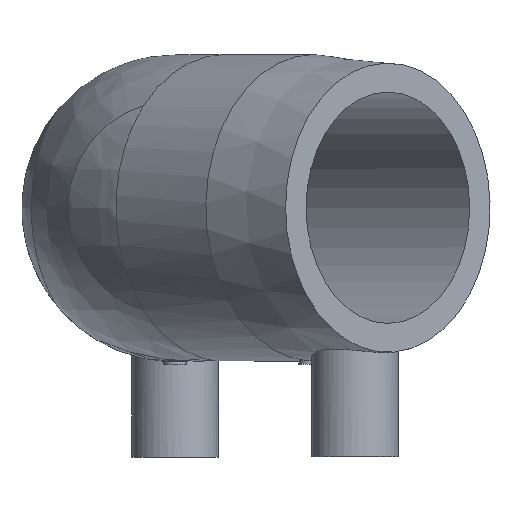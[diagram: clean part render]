
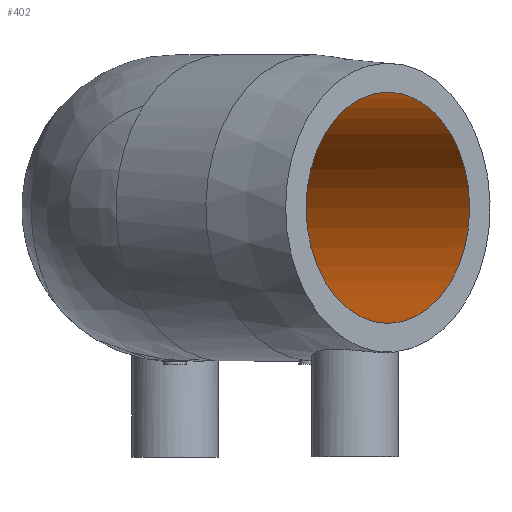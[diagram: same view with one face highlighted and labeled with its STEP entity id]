
A CAD part, top view. The second image highlights one B-rep face of the part: STEP entity #402.
In plain terms, the highlighted cylindrical face has radius 20 mm (diameter 40 mm), a full revolution.
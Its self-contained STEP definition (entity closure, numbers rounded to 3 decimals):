
#53=CYLINDRICAL_SURFACE('',#461,20.);
#114=ORIENTED_EDGE('',*,*,#175,.F.);
#115=ORIENTED_EDGE('',*,*,#179,.F.);
#175=EDGE_CURVE('',#217,#217,#244,.T.);
#179=EDGE_CURVE('',#220,#220,#246,.T.);
#217=VERTEX_POINT('',#916);
#220=VERTEX_POINT('',#936);
#244=CIRCLE('',#457,20.);
#246=CIRCLE('',#462,20.);
#289=EDGE_LOOP('',(#114));
#290=EDGE_LOOP('',(#115));
#346=FACE_BOUND('',#289,.T.);
#347=FACE_BOUND('',#290,.T.);
#402=ADVANCED_FACE('',(#346,#347),#53,.F.);
#457=AXIS2_PLACEMENT_3D('',#915,#542,#543);
#461=AXIS2_PLACEMENT_3D('',#934,#550,#551);
#462=AXIS2_PLACEMENT_3D('',#935,#552,#553);
#542=DIRECTION('',(0.707,0.,0.707));
#543=DIRECTION('',(0.707,0.,-0.707));
#550=DIRECTION('',(-0.707,0.,-0.707));
#551=DIRECTION('',(0.707,0.,-0.707));
#552=DIRECTION('',(-0.707,0.,-0.707));
#553=DIRECTION('',(0.707,0.,-0.707));
#915=CARTESIAN_POINT('',(7.778,0.,7.778));
#916=CARTESIAN_POINT('',(21.92,0.,-6.364));
#934=CARTESIAN_POINT('',(36.77,0.,36.77));
#935=CARTESIAN_POINT('',(36.77,0.,36.77));
#936=CARTESIAN_POINT('',(50.912,0.,22.627));
